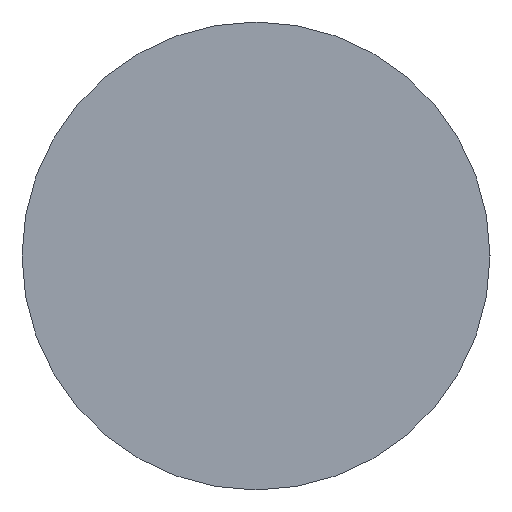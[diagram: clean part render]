
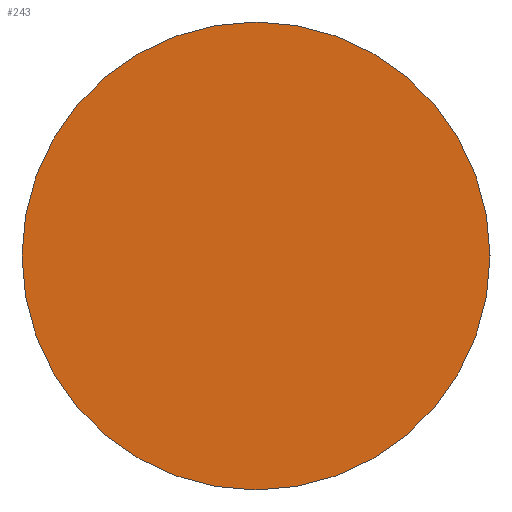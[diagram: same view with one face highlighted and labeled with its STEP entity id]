
A CAD part, left-side view. The second image highlights one B-rep face of the part: STEP entity #243.
In plain terms, the highlighted planar face has unit normal (-1, 0, 0).
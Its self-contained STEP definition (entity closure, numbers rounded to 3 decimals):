
#13 = FACE_OUTER_BOUND ( 'NONE', #214, .T. ) ;
#18 = ORIENTED_EDGE ( 'NONE', *, *, #187, .F. ) ;
#20 = CARTESIAN_POINT ( 'NONE',  ( 0., 0., 0. ) ) ;
#70 = AXIS2_PLACEMENT_3D ( 'NONE', #87, #168, #253 ) ;
#74 = CARTESIAN_POINT ( 'NONE',  ( 0., 3.5, 0. ) ) ;
#87 = CARTESIAN_POINT ( 'NONE',  ( 0., 0., 0. ) ) ;
#95 = CARTESIAN_POINT ( 'NONE',  ( 0., 0., 0. ) ) ;
#128 = CARTESIAN_POINT ( 'NONE',  ( 0., -3.5, 0. ) ) ;
#143 = EDGE_CURVE ( 'NONE', #244, #250, #158, .T. ) ;
#157 = DIRECTION ( 'NONE',  ( -1., 0., 0. ) ) ;
#158 = CIRCLE ( 'NONE', #70, 3.5 ) ;
#160 = DIRECTION ( 'NONE',  ( 0., -1., 0. ) ) ;
#168 = DIRECTION ( 'NONE',  ( 1., 0., 0. ) ) ;
#187 = EDGE_CURVE ( 'NONE', #250, #244, #196, .T. ) ;
#191 = DIRECTION ( 'NONE',  ( 1., 0., 0. ) ) ;
#196 = CIRCLE ( 'NONE', #203, 3.5 ) ;
#197 = ORIENTED_EDGE ( 'NONE', *, *, #143, .F. ) ;
#203 = AXIS2_PLACEMENT_3D ( 'NONE', #95, #191, #270 ) ;
#214 = EDGE_LOOP ( 'NONE', ( #18, #197 ) ) ;
#216 = AXIS2_PLACEMENT_3D ( 'NONE', #20, #157, #160 ) ;
#238 = PLANE ( 'NONE',  #216 ) ;
#243 = ADVANCED_FACE ( 'NONE', ( #13 ), #238, .T. ) ;
#244 = VERTEX_POINT ( 'NONE', #128 ) ;
#250 = VERTEX_POINT ( 'NONE', #74 ) ;
#253 = DIRECTION ( 'NONE',  ( 0., 1., 0. ) ) ;
#270 = DIRECTION ( 'NONE',  ( 0., 1., 0. ) ) ;
